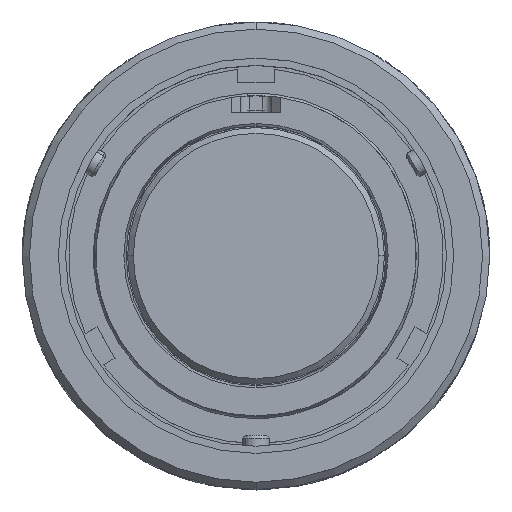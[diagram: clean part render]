
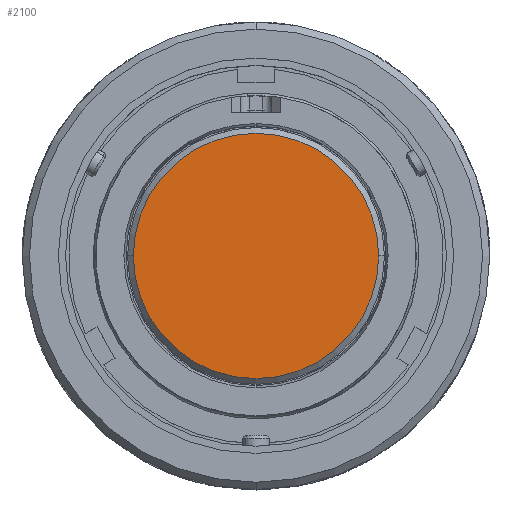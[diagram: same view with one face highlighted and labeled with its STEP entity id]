
A CAD part, top view. The second image highlights one B-rep face of the part: STEP entity #2100.
In plain terms, the highlighted planar face has unit normal (0, 0, 1).
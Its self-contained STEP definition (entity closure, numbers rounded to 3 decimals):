
#519 = ORIENTED_EDGE ( 'NONE', *, *, #9841, .T. ) ;
#1240 = FACE_OUTER_BOUND ( 'NONE', #9067, .T. ) ;
#2100 = ADVANCED_FACE ( 'NONE', ( #1240 ), #2752, .T. ) ;
#2752 = PLANE ( 'NONE',  #5226 ) ;
#2863 = CIRCLE ( 'NONE', #9719, 10.795 ) ;
#4060 = CARTESIAN_POINT ( 'NONE',  ( -10.795, 0., -13.589 ) ) ;
#4726 = VERTEX_POINT ( 'NONE', #4060 ) ;
#5226 = AXIS2_PLACEMENT_3D ( 'NONE', #8138, #8882, #7482 ) ;
#5530 = CARTESIAN_POINT ( 'NONE',  ( 0., 0., -13.589 ) ) ;
#5622 = EDGE_CURVE ( 'NONE', #8699, #4726, #7879, .T. ) ;
#6404 = DIRECTION ( 'NONE',  ( 1., 0., 0. ) ) ;
#6559 = CARTESIAN_POINT ( 'NONE',  ( 0., 0., -13.589 ) ) ;
#6754 = AXIS2_PLACEMENT_3D ( 'NONE', #6559, #7158, #6404 ) ;
#7158 = DIRECTION ( 'NONE',  ( 0., 0., 1. ) ) ;
#7482 = DIRECTION ( 'NONE',  ( 1., 0., 0. ) ) ;
#7879 = CIRCLE ( 'NONE', #6754, 10.795 ) ;
#8138 = CARTESIAN_POINT ( 'NONE',  ( 0., 0., -13.589 ) ) ;
#8584 = DIRECTION ( 'NONE',  ( 0., 0., 1. ) ) ;
#8682 = CARTESIAN_POINT ( 'NONE',  ( 10.795, 0., -13.589 ) ) ;
#8699 = VERTEX_POINT ( 'NONE', #8682 ) ;
#8882 = DIRECTION ( 'NONE',  ( 0., 0., 1. ) ) ;
#9067 = EDGE_LOOP ( 'NONE', ( #519, #9351 ) ) ;
#9351 = ORIENTED_EDGE ( 'NONE', *, *, #5622, .T. ) ;
#9387 = DIRECTION ( 'NONE',  ( 1., 0., 0. ) ) ;
#9719 = AXIS2_PLACEMENT_3D ( 'NONE', #5530, #8584, #9387 ) ;
#9841 = EDGE_CURVE ( 'NONE', #4726, #8699, #2863, .T. ) ;
